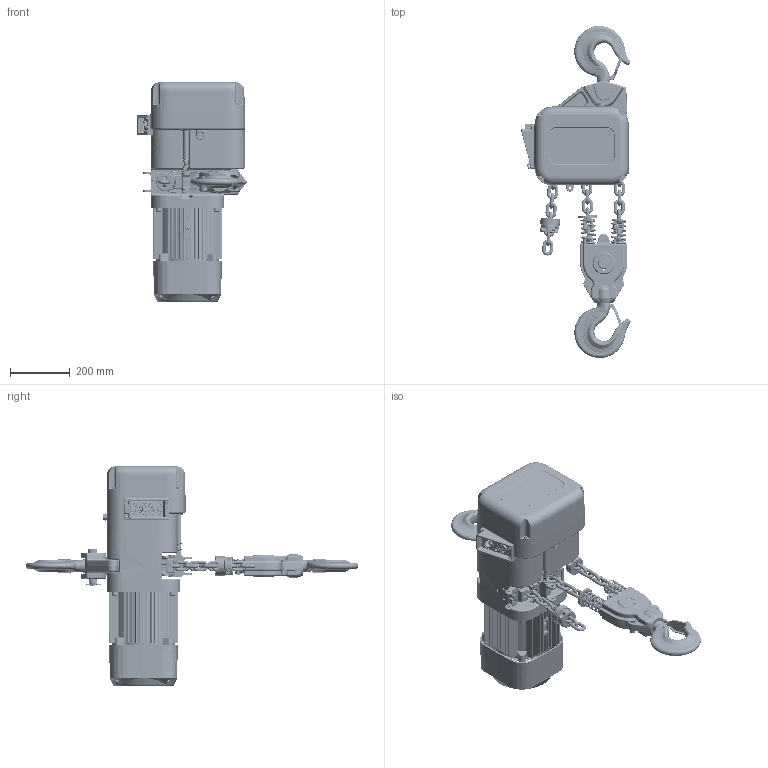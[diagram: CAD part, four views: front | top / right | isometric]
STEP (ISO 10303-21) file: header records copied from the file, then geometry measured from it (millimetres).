
FILE_DESCRIPTION (( 'STEP AP214' ), '1' );
FILE_NAME ('NER2050L.STEP', '2025-10-10T19:20:11', ( '' ), ( '' ), 'SwSTEP 2.0', 'SolidWorks 2025', '' );
FILE_SCHEMA (( 'AUTOMOTIVE_DESIGN' ));
Length unit declared in the file: inch
Products named in the file (53): ER1EM9053; ER2EI2564; ER2ES9107_ER2ES9107; 9679711_9679711; ER2CS9511; ER2FS6121; ER2EI4511; NER2050L; ER2FR9015; ER2FS9103; ER1EM9051; ER2CS9357; ER1BS9135; ER2FS9331; ER2EI2523; J1NL00120200_J1NL00120200; MS561010; ER2BHM50R9A6; 9093433_9093433; J1BG10604040_J1BG10604040; ES041050; LCER2025NP; LCER2025NP_12 Links; ER2FS9338; ER2BHM25S9A5; ER2FS9101; 9009437_9009437; 9012713_9012713; ER1FS9054; ER2FR1001; 9091255_9091255; ER2FR1002; ER2FR9030; ER2FR1011; ER2FS9337; ER1ES1041; ES127005S; ES006050; ER2FR9011; 9009424_9009424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
Assembly tree (128 placements, depth 4):
  NER2050L
    ER2FS9103
    ER2FS9101
    ER2FS9105
    ER2ES9107_ER2ES9107
    ER2FS9331
    ER2FS9338
    ER2FS9337
    ER2CS9357
    ES127005S
    ER1BS9135
    E3S112003
    E3S111003
    ER2FR9030
    ER2FR1001
      ER2FR9001
      ER2FR1002
    ER2EI4511
      ER2CS9511
      MS561010  x8
      ER2EI2523
      ER2EI2564
      ES558003  x8
    ER2FR1011
      ER2FR9011
      ER2FR1002
      ER2FR2015
        ER2FR9015  x2
        9093146_9093146  x3
        9012713_9012713  x3
        9093433_9093433  x3
    ER1EM9051  x2
    ER2FS6121
    ER2FS6122
    ER1FS9054
    ER1EM9053
    ER1ES1041  x2
    ES006050
    ES041050
    M2049030_M2049030
    J1NL00120200_J1NL00120200
    9009437_9009437
    LCER2025NP_12 Links
      LCER2025NP  x12
    LCER2025NP (2)
      LCER2025NP  x16
    LCER2025 NP (SHAPED)
      LCER2025NP  x12
    ER2FS9104_ER2FS9104
    ER2BHM25S9A5
    ER2BHM50R9A6
    90912116_90912116  x5
    J1BG10604040_J1BG10604040  x4
    9679711_9679711  x4
    9091255_9091255  x4
    9009424_9009424
Bounding box: 366 x 1113.65 x 736 mm (x, y, z)
Volume: 32479778.1 mm3; surface area: 2821875.1 mm2
Topology: 146 solids, 150 shells, 6710 faces, 16875 edges, 10320 vertices
Faces by surface type: cylinder 2450, plane 1988, torus 824, bspline 774, cone 425, sphere 249
Entity records: 210300 total; most frequent: CARTESIAN_POINT 91909, DIRECTION 24057, ORIENTED_EDGE 23854, EDGE_CURVE 11927, AXIS2_PLACEMENT_3D 9399, VERTEX_POINT 7448, LINE 5259, VECTOR 5259
